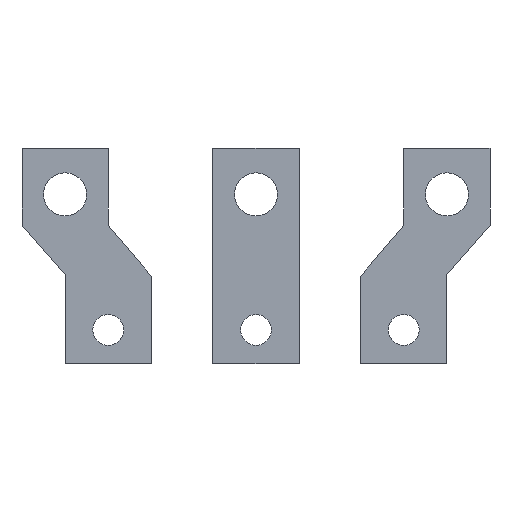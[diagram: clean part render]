
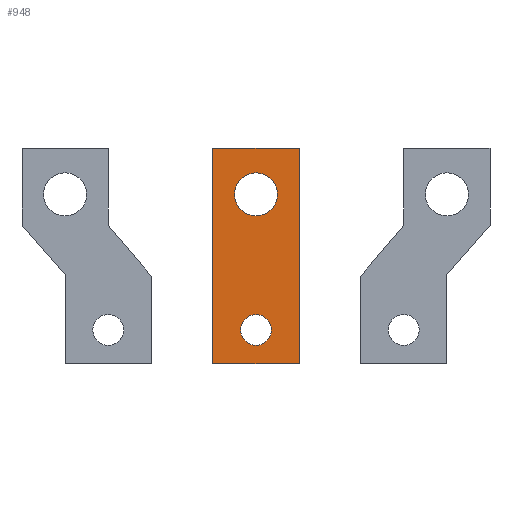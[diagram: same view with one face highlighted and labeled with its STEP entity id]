
A CAD part, front view. The second image highlights one B-rep face of the part: STEP entity #948.
In plain terms, the highlighted planar face has unit normal (0, -1, 0).
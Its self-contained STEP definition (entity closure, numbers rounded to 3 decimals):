
#7 = VECTOR ( 'NONE', #198, 1000. ) ;
#37 = CARTESIAN_POINT ( 'NONE',  ( 0., 0., 20. ) ) ;
#41 = DIRECTION ( 'NONE',  ( -1., 0., 0. ) ) ;
#54 = CARTESIAN_POINT ( 'NONE',  ( 0., 0., 0. ) ) ;
#67 = AXIS2_PLACEMENT_3D ( 'NONE', #778, #90, #250 ) ;
#69 = CARTESIAN_POINT ( 'NONE',  ( -5., 0., -24. ) ) ;
#85 = VECTOR ( 'NONE', #825, 1000. ) ;
#90 = DIRECTION ( 'NONE',  ( 0., -1., 0. ) ) ;
#103 = VERTEX_POINT ( 'NONE', #123 ) ;
#109 = EDGE_CURVE ( 'NONE', #667, #411, #118, .T. ) ;
#113 = EDGE_LOOP ( 'NONE', ( #827, #595, #141, #135 ) ) ;
#118 = CIRCLE ( 'NONE', #644, 5. ) ;
#123 = CARTESIAN_POINT ( 'NONE',  ( 14., 0., -35. ) ) ;
#135 = ORIENTED_EDGE ( 'NONE', *, *, #501, .F. ) ;
#141 = ORIENTED_EDGE ( 'NONE', *, *, #929, .F. ) ;
#176 = CARTESIAN_POINT ( 'NONE',  ( 0., 0., -24. ) ) ;
#191 = PLANE ( 'NONE',  #231 ) ;
#198 = DIRECTION ( 'NONE',  ( 1., 0., 0. ) ) ;
#209 = ORIENTED_EDGE ( 'NONE', *, *, #296, .F. ) ;
#218 = EDGE_CURVE ( 'NONE', #103, #707, #772, .T. ) ;
#231 = AXIS2_PLACEMENT_3D ( 'NONE', #54, #364, #814 ) ;
#239 = EDGE_LOOP ( 'NONE', ( #812, #209 ) ) ;
#249 = DIRECTION ( 'NONE',  ( 0., 0., -1. ) ) ;
#250 = DIRECTION ( 'NONE',  ( 1., 0., 0. ) ) ;
#278 = FACE_BOUND ( 'NONE', #239, .T. ) ;
#290 = DIRECTION ( 'NONE',  ( 0., -1., 0. ) ) ;
#296 = EDGE_CURVE ( 'NONE', #411, #667, #430, .T. ) ;
#327 = CARTESIAN_POINT ( 'NONE',  ( 14., 0., 35. ) ) ;
#357 = CARTESIAN_POINT ( 'NONE',  ( 5., 0., -24. ) ) ;
#364 = DIRECTION ( 'NONE',  ( 0., 1., 0. ) ) ;
#376 = VECTOR ( 'NONE', #880, 1000. ) ;
#391 = EDGE_CURVE ( 'NONE', #453, #960, #509, .T. ) ;
#411 = VERTEX_POINT ( 'NONE', #357 ) ;
#430 = CIRCLE ( 'NONE', #708, 5. ) ;
#433 = DIRECTION ( 'NONE',  ( 0., -1., 0. ) ) ;
#453 = VERTEX_POINT ( 'NONE', #659 ) ;
#477 = EDGE_CURVE ( 'NONE', #960, #453, #647, .T. ) ;
#489 = DIRECTION ( 'NONE',  ( -1., 0., 0. ) ) ;
#501 = EDGE_CURVE ( 'NONE', #707, #514, #597, .T. ) ;
#508 = ORIENTED_EDGE ( 'NONE', *, *, #391, .F. ) ;
#509 = CIRCLE ( 'NONE', #67, 7. ) ;
#511 = CARTESIAN_POINT ( 'NONE',  ( -14., 0., 35. ) ) ;
#514 = VERTEX_POINT ( 'NONE', #511 ) ;
#518 = CARTESIAN_POINT ( 'NONE',  ( -14., 0., 35. ) ) ;
#573 = VECTOR ( 'NONE', #249, 1000. ) ;
#587 = CARTESIAN_POINT ( 'NONE',  ( -14., 0., -35. ) ) ;
#589 = CARTESIAN_POINT ( 'NONE',  ( -7., 0., 20. ) ) ;
#595 = ORIENTED_EDGE ( 'NONE', *, *, #622, .F. ) ;
#597 = LINE ( 'NONE', #587, #376 ) ;
#602 = CARTESIAN_POINT ( 'NONE',  ( 14., 0., -35. ) ) ;
#622 = EDGE_CURVE ( 'NONE', #822, #103, #922, .T. ) ;
#637 = CARTESIAN_POINT ( 'NONE',  ( 0., 0., -24. ) ) ;
#639 = DIRECTION ( 'NONE',  ( 0., -1., 0. ) ) ;
#644 = AXIS2_PLACEMENT_3D ( 'NONE', #176, #433, #489 ) ;
#647 = CIRCLE ( 'NONE', #710, 7. ) ;
#659 = CARTESIAN_POINT ( 'NONE',  ( 7., 0., 20. ) ) ;
#662 = FACE_OUTER_BOUND ( 'NONE', #113, .T. ) ;
#667 = VERTEX_POINT ( 'NONE', #69 ) ;
#707 = VERTEX_POINT ( 'NONE', #901 ) ;
#708 = AXIS2_PLACEMENT_3D ( 'NONE', #637, #639, #796 ) ;
#710 = AXIS2_PLACEMENT_3D ( 'NONE', #37, #290, #41 ) ;
#743 = FACE_BOUND ( 'NONE', #886, .T. ) ;
#772 = LINE ( 'NONE', #602, #85 ) ;
#778 = CARTESIAN_POINT ( 'NONE',  ( 0., 0., 20. ) ) ;
#796 = DIRECTION ( 'NONE',  ( 1., 0., 0. ) ) ;
#812 = ORIENTED_EDGE ( 'NONE', *, *, #109, .F. ) ;
#814 = DIRECTION ( 'NONE',  ( 1., 0., 0. ) ) ;
#822 = VERTEX_POINT ( 'NONE', #857 ) ;
#825 = DIRECTION ( 'NONE',  ( -1., 0., 0. ) ) ;
#827 = ORIENTED_EDGE ( 'NONE', *, *, #218, .F. ) ;
#857 = CARTESIAN_POINT ( 'NONE',  ( 14., 0., 35. ) ) ;
#876 = LINE ( 'NONE', #518, #7 ) ;
#880 = DIRECTION ( 'NONE',  ( 0., 0., 1. ) ) ;
#886 = EDGE_LOOP ( 'NONE', ( #952, #508 ) ) ;
#901 = CARTESIAN_POINT ( 'NONE',  ( -14., 0., -35. ) ) ;
#922 = LINE ( 'NONE', #327, #573 ) ;
#929 = EDGE_CURVE ( 'NONE', #514, #822, #876, .T. ) ;
#948 = ADVANCED_FACE ( 'NONE', ( #278, #743, #662 ), #191, .F. ) ;
#952 = ORIENTED_EDGE ( 'NONE', *, *, #477, .F. ) ;
#960 = VERTEX_POINT ( 'NONE', #589 ) ;
